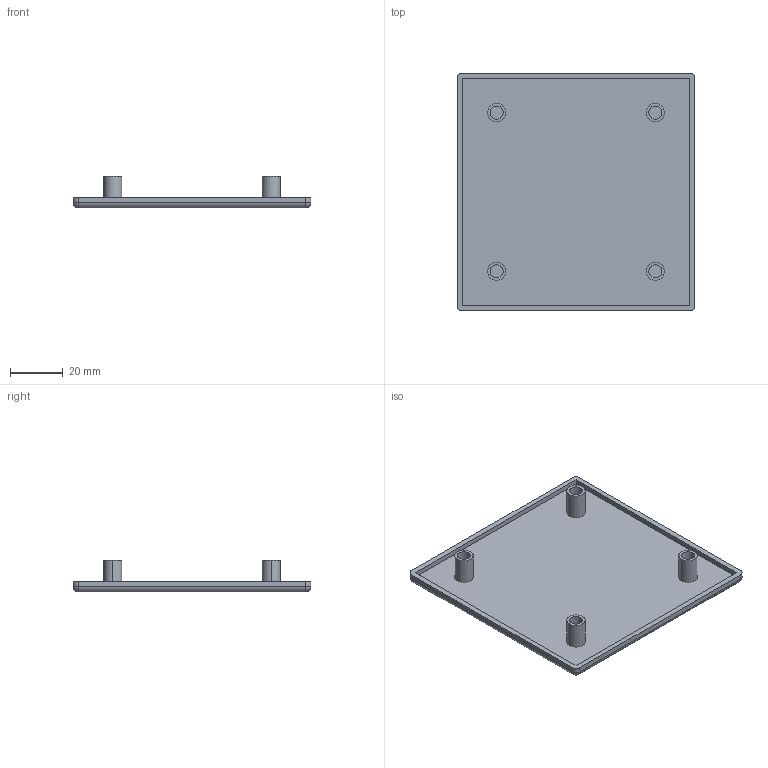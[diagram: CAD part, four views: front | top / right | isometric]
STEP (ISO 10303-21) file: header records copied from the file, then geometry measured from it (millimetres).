
FILE_DESCRIPTION (( 'STEP AP203' ), '1' );
FILE_NAME ('182-CE-CP-9090.STEP', '2015-07-09T09:17:23', ( '' ), ( '' ), 'SwSTEP 2.0', 'SolidWorks 2013', '' );
FILE_SCHEMA (( 'CONFIG_CONTROL_DESIGN' ));
Length unit declared in the file: millimetre
Products named in the file (1): 182-CE-CP-9090
Bounding box: 90 x 90 x 12 mm (x, y, z)
Volume: 18044.6 mm3; surface area: 19507.5 mm2
Topology: 1 solids, 1 shells, 47 faces, 100 edges, 60 vertices
Faces by surface type: cylinder 24, plane 19, sphere 4
Entity records: 1319 total; most frequent: DIRECTION 240, CARTESIAN_POINT 204, ORIENTED_EDGE 192, AXIS2_PLACEMENT_3D 96, EDGE_CURVE 96, VERTEX_POINT 60, EDGE_LOOP 56, CIRCLE 48
